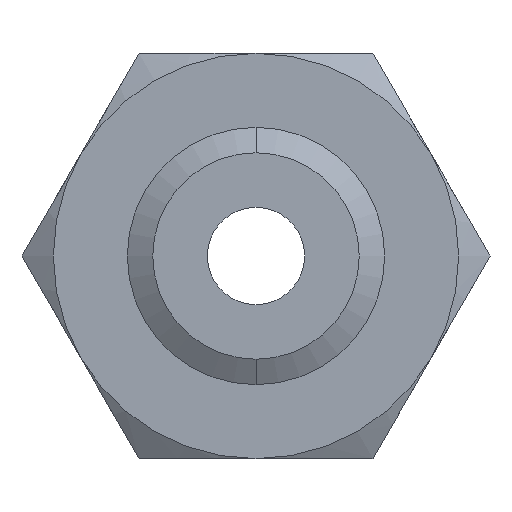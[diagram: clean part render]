
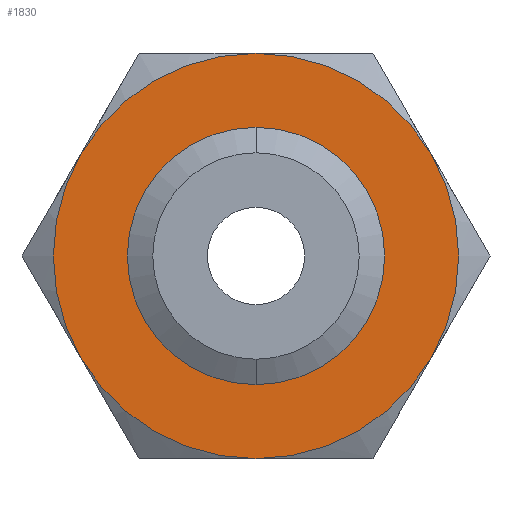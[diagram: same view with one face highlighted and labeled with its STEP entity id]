
A CAD part, front view. The second image highlights one B-rep face of the part: STEP entity #1830.
In plain terms, the highlighted planar face has unit normal (0, -1, 0).
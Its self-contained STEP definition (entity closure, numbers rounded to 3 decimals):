
#255 = EDGE_CURVE ( 'NONE', #256, #257, #832, .T. ) ;
#256 = VERTEX_POINT ( 'NONE', #827 ) ;
#257 = VERTEX_POINT ( 'NONE', #826 ) ;
#826 = CARTESIAN_POINT ( 'NONE',  ( 0., 0., 12.731 ) ) ;
#827 = CARTESIAN_POINT ( 'NONE',  ( 0., 0., -12.731 ) ) ;
#828 = DIRECTION ( 'NONE',  ( 0., 0., -1. ) ) ;
#829 = DIRECTION ( 'NONE',  ( 0., -1., 0. ) ) ;
#830 = CARTESIAN_POINT ( 'NONE',  ( 0., 0., 0. ) ) ;
#831 = AXIS2_PLACEMENT_3D ( 'NONE', #830, #829, #828 ) ;
#832 = CIRCLE ( 'NONE', #831, 12.731 ) ;
#1055 = CARTESIAN_POINT ( 'NONE',  ( -21.651, 0., -12.5 ) ) ;
#1110 = CARTESIAN_POINT ( 'NONE',  ( 21.651, 0., -12.5 ) ) ;
#1111 = CARTESIAN_POINT ( 'NONE',  ( 0., 0., 0. ) ) ;
#1112 = AXIS2_PLACEMENT_3D ( 'NONE', #1111, #1172, #1171 ) ;
#1113 = CIRCLE ( 'NONE', #1112, 25. ) ;
#1114 = CARTESIAN_POINT ( 'NONE',  ( 0., 0., -25. ) ) ;
#1142 = CARTESIAN_POINT ( 'NONE',  ( -21.651, 0., 12.5 ) ) ;
#1143 = CARTESIAN_POINT ( 'NONE',  ( 0., 0., 25. ) ) ;
#1144 = DIRECTION ( 'NONE',  ( 0., 0., 1. ) ) ;
#1145 = DIRECTION ( 'NONE',  ( 0., 1., 0. ) ) ;
#1146 = CARTESIAN_POINT ( 'NONE',  ( 0., 0., 0. ) ) ;
#1147 = AXIS2_PLACEMENT_3D ( 'NONE', #1146, #1145, #1144 ) ;
#1148 = CIRCLE ( 'NONE', #1147, 25. ) ;
#1149 = DIRECTION ( 'NONE',  ( 0., 0., 1. ) ) ;
#1150 = DIRECTION ( 'NONE',  ( 0., 1., 0. ) ) ;
#1151 = CARTESIAN_POINT ( 'NONE',  ( 0., 0., 0. ) ) ;
#1152 = AXIS2_PLACEMENT_3D ( 'NONE', #1151, #1150, #1149 ) ;
#1153 = CIRCLE ( 'NONE', #1152, 25. ) ;
#1154 = CARTESIAN_POINT ( 'NONE',  ( 21.651, 0., 12.5 ) ) ;
#1166 = DIRECTION ( 'NONE',  ( 0., 0., 1. ) ) ;
#1167 = DIRECTION ( 'NONE',  ( 0., 1., 0. ) ) ;
#1168 = CARTESIAN_POINT ( 'NONE',  ( 0., 0., 0. ) ) ;
#1169 = AXIS2_PLACEMENT_3D ( 'NONE', #1168, #1167, #1166 ) ;
#1170 = CIRCLE ( 'NONE', #1169, 25. ) ;
#1171 = DIRECTION ( 'NONE',  ( 0., 0., 1. ) ) ;
#1172 = DIRECTION ( 'NONE',  ( 0., 1., 0. ) ) ;
#1184 = DIRECTION ( 'NONE',  ( 0., 0., 1. ) ) ;
#1185 = DIRECTION ( 'NONE',  ( 0., 1., 0. ) ) ;
#1186 = CARTESIAN_POINT ( 'NONE',  ( 14.434, 0., -25. ) ) ;
#1187 = AXIS2_PLACEMENT_3D ( 'NONE', #1186, #1185, #1184 ) ;
#1188 = PLANE ( 'NONE',  #1187 ) ;
#1189 = FACE_BOUND ( 'NONE', #2015, .T. ) ;
#1190 = FACE_OUTER_BOUND ( 'NONE', #1814, .T. ) ;
#1202 = DIRECTION ( 'NONE',  ( 0., 0., 1. ) ) ;
#1203 = DIRECTION ( 'NONE',  ( 0., 1., 0. ) ) ;
#1204 = CARTESIAN_POINT ( 'NONE',  ( 0., 0., 0. ) ) ;
#1205 = AXIS2_PLACEMENT_3D ( 'NONE', #1204, #1203, #1202 ) ;
#1206 = CIRCLE ( 'NONE', #1205, 25. ) ;
#1567 = DIRECTION ( 'NONE',  ( 0., 0., -1. ) ) ;
#1568 = DIRECTION ( 'NONE',  ( 0., -1., 0. ) ) ;
#1569 = CARTESIAN_POINT ( 'NONE',  ( 0., 0., 0. ) ) ;
#1570 = AXIS2_PLACEMENT_3D ( 'NONE', #1569, #1568, #1567 ) ;
#1571 = CIRCLE ( 'NONE', #1570, 12.731 ) ;
#1572 = DIRECTION ( 'NONE',  ( 0., 0., 1. ) ) ;
#1573 = DIRECTION ( 'NONE',  ( 0., 1., 0. ) ) ;
#1574 = AXIS2_PLACEMENT_3D ( 'NONE', #1579, #1573, #1572 ) ;
#1575 = CIRCLE ( 'NONE', #1574, 25. ) ;
#1579 = CARTESIAN_POINT ( 'NONE',  ( 0., 0., 0. ) ) ;
#1776 = VERTEX_POINT ( 'NONE', #1055 ) ;
#1778 = VERTEX_POINT ( 'NONE', #1110 ) ;
#1805 = VERTEX_POINT ( 'NONE', #1114 ) ;
#1806 = EDGE_CURVE ( 'NONE', #1778, #1805, #1113, .T. ) ;
#1807 = ORIENTED_EDGE ( 'NONE', *, *, #1806, .F. ) ;
#1808 = ORIENTED_EDGE ( 'NONE', *, *, #1809, .F. ) ;
#1809 = EDGE_CURVE ( 'NONE', #1805, #1776, #1170, .T. ) ;
#1814 = EDGE_LOOP ( 'NONE', ( #1816, #1817, #1823, #1808, #1807, #1972 ) ) ;
#1815 = VERTEX_POINT ( 'NONE', #1154 ) ;
#1816 = ORIENTED_EDGE ( 'NONE', *, *, #1818, .F. ) ;
#1817 = ORIENTED_EDGE ( 'NONE', *, *, #1819, .F. ) ;
#1818 = EDGE_CURVE ( 'NONE', #1820, #1815, #1153, .T. ) ;
#1819 = EDGE_CURVE ( 'NONE', #1821, #1820, #1148, .T. ) ;
#1820 = VERTEX_POINT ( 'NONE', #1143 ) ;
#1821 = VERTEX_POINT ( 'NONE', #1142 ) ;
#1822 = EDGE_CURVE ( 'NONE', #1776, #1821, #1206, .T. ) ;
#1823 = ORIENTED_EDGE ( 'NONE', *, *, #1822, .F. ) ;
#1830 = ADVANCED_FACE ( 'NONE', ( #1190, #1189 ), #1188, .F. ) ;
#1972 = ORIENTED_EDGE ( 'NONE', *, *, #2011, .F. ) ;
#2011 = EDGE_CURVE ( 'NONE', #1815, #1778, #1575, .T. ) ;
#2012 = EDGE_CURVE ( 'NONE', #257, #256, #1571, .T. ) ;
#2013 = ORIENTED_EDGE ( 'NONE', *, *, #2012, .F. ) ;
#2014 = ORIENTED_EDGE ( 'NONE', *, *, #255, .F. ) ;
#2015 = EDGE_LOOP ( 'NONE', ( #2014, #2013 ) ) ;
